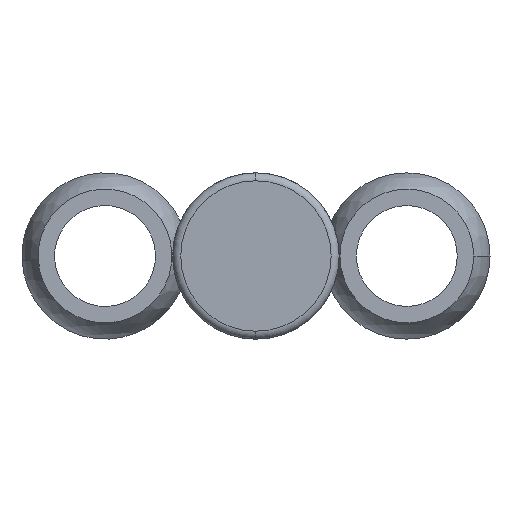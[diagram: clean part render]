
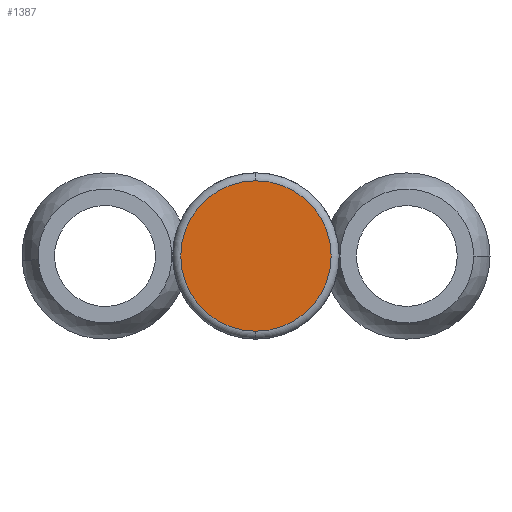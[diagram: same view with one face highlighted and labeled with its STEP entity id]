
A CAD part, front view. The second image highlights one B-rep face of the part: STEP entity #1387.
In plain terms, the highlighted planar face has unit normal (0, -1, 0).
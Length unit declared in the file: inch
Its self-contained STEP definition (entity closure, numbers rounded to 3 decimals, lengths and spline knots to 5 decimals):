
#6 = CARTESIAN_POINT ( 'NONE',  ( 0., -1.075, 0. ) ) ;
#128 = FACE_OUTER_BOUND ( 'NONE', #1031, .T. ) ;
#163 = DIRECTION ( 'NONE',  ( 0., 0., 1. ) ) ;
#193 = ORIENTED_EDGE ( 'NONE', *, *, #835, .T. ) ;
#260 = CARTESIAN_POINT ( 'NONE',  ( 0., -1.075, -0.2825 ) ) ;
#295 = CARTESIAN_POINT ( 'NONE',  ( 0., -1.075, 0. ) ) ;
#369 = CIRCLE ( 'NONE', #1201, 0.2825 ) ;
#519 = DIRECTION ( 'NONE',  ( 0., 0., 1. ) ) ;
#567 = VERTEX_POINT ( 'NONE', #260 ) ;
#594 = AXIS2_PLACEMENT_3D ( 'NONE', #295, #721, #519 ) ;
#616 = AXIS2_PLACEMENT_3D ( 'NONE', #6, #1290, #639 ) ;
#639 = DIRECTION ( 'NONE',  ( 0., 0., 1. ) ) ;
#721 = DIRECTION ( 'NONE',  ( 0., -1., 0. ) ) ;
#725 = EDGE_CURVE ( 'NONE', #1157, #567, #369, .T. ) ;
#835 = EDGE_CURVE ( 'NONE', #567, #1157, #1188, .T. ) ;
#970 = PLANE ( 'NONE',  #616 ) ;
#1029 = CARTESIAN_POINT ( 'NONE',  ( 0., -1.075, 0. ) ) ;
#1031 = EDGE_LOOP ( 'NONE', ( #1048, #193 ) ) ;
#1048 = ORIENTED_EDGE ( 'NONE', *, *, #725, .T. ) ;
#1146 = DIRECTION ( 'NONE',  ( 0., -1., 0. ) ) ;
#1157 = VERTEX_POINT ( 'NONE', #1226 ) ;
#1188 = CIRCLE ( 'NONE', #594, 0.2825 ) ;
#1201 = AXIS2_PLACEMENT_3D ( 'NONE', #1029, #1146, #163 ) ;
#1226 = CARTESIAN_POINT ( 'NONE',  ( 0., -1.075, 0.2825 ) ) ;
#1290 = DIRECTION ( 'NONE',  ( 0., 1., 0. ) ) ;
#1387 = ADVANCED_FACE ( 'NONE', ( #128 ), #970, .F. ) ;
